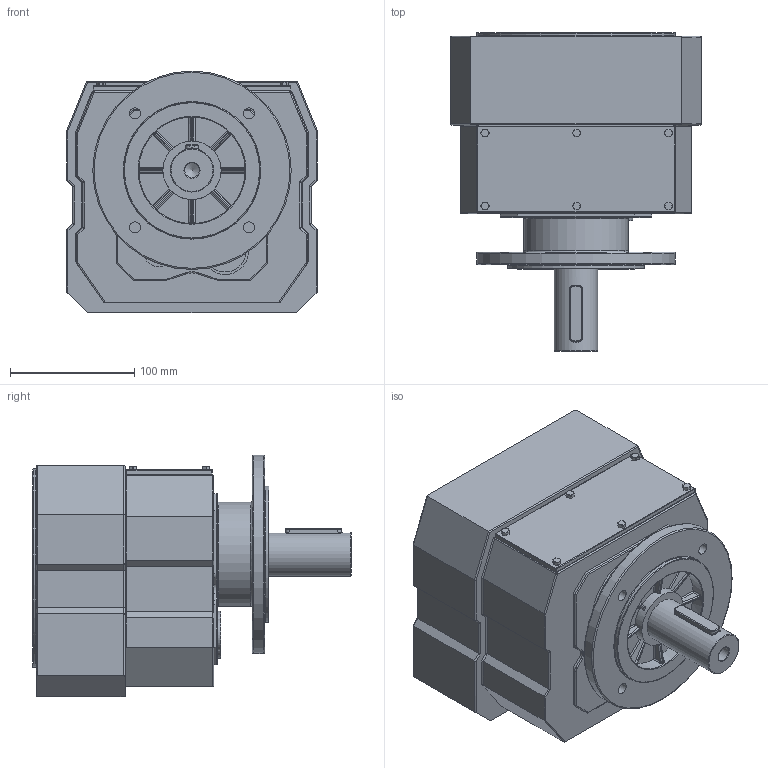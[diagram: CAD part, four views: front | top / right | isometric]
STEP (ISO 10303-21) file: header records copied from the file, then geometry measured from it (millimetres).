
FILE_DESCRIPTION((''),'2;1');
FILE_NAME('D:\PAWEŁ\ZLECENIA\2011 DualSystem\Przekładnie DR\DR50\STEP\DRF50_fi 160.stp','2012-06-11T12:03:23',('admin'),(''),'Autodesk Inventor 2009','Autodesk Inventor 2009','');
FILE_SCHEMA(('AUTOMOTIVE_DESIGN { 1 0 10303 214 1 1 1 1 }'));
Length unit declared in the file: millimetre
Products named in the file (1): DRF50_fi 160
Bounding box: 202 x 257 x 195 mm (x, y, z)
Volume: 5296734.1 mm3; surface area: 258456.9 mm2
Topology: 2 solids, 2 shells, 500 faces, 1197 edges, 676 vertices
Faces by surface type: cylinder 230, plane 164, sphere 44, bspline 43, torus 19
Full cylindrical faces by diameter (mm): 25.333 x1, 34 x1, 35 x1, 38 x1, 47 x1, 84 x1, 86 x1, 110 x1, 120 x1, 160 x2
Entity records: 16778 total; most frequent: CARTESIAN_POINT 5260, DIRECTION 2472, ORIENTED_EDGE 2248, EDGE_CURVE 1124, AXIS2_PLACEMENT_3D 932, VERTEX_POINT 669, VECTOR 608, LINE 608
